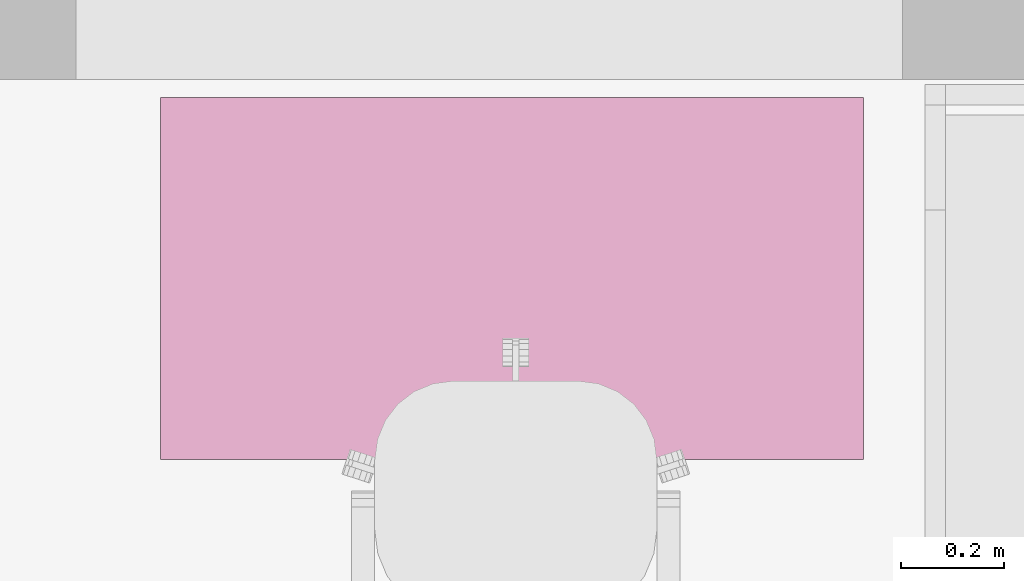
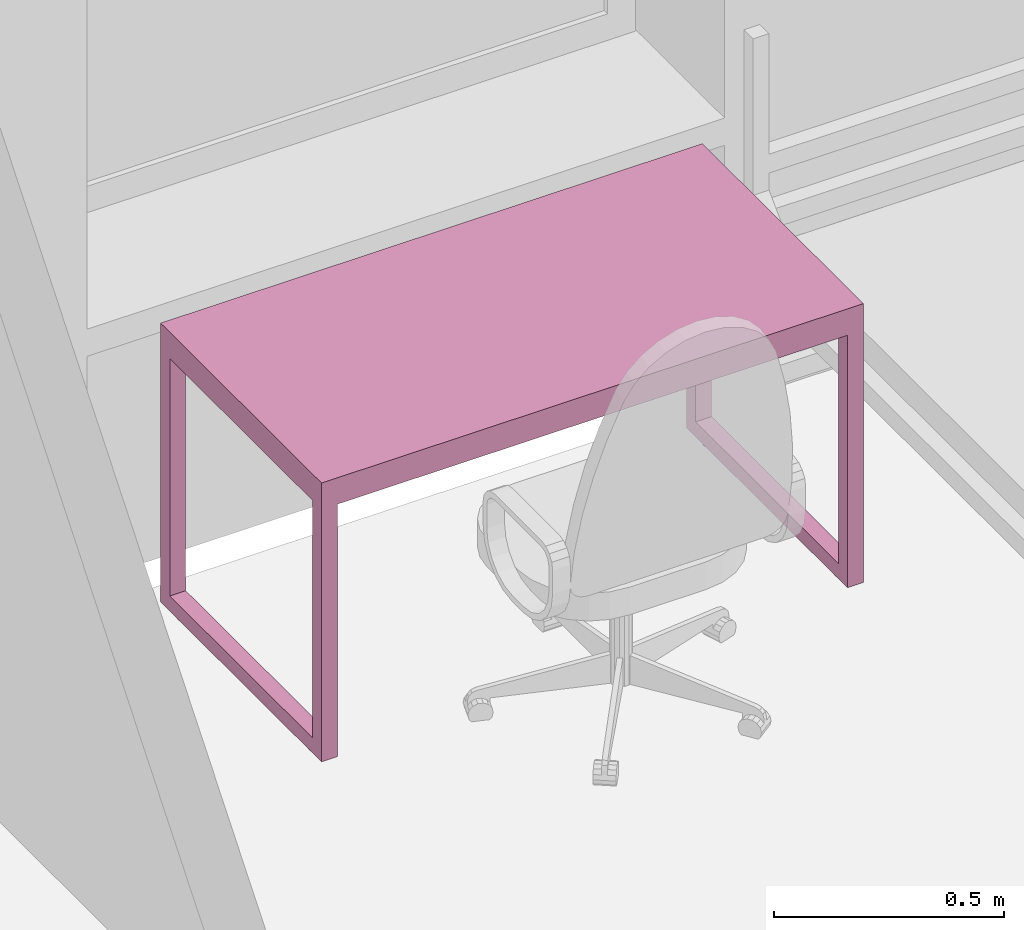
# One storey, part 25 of 46: 1 furnishing.
"""IFC2X3 building model written with IfcOpenShell, lengths in millimetres."""

from ifc_helpers import new_model, entity, si_unit, converted_unit, derived_unit, direction, frame, origin, place, context, subcontext, project, spatial, faceted_brep, source, transform, mapped, material, material_list, type_object, type_shapes, element, save


model = new_model("IFC2X3")

# Units and contexts
model_context = context("Model", 3, precision=0.01, world=origin(), true_north=direction((6.12303176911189e-17, 1.0)))
body_context = subcontext(model_context, "Body", "Model", "MODEL_VIEW")
ifc_project = project(units=[si_unit("LENGTHUNIT", "METRE", prefix="MILLI"), si_unit("AREAUNIT", "SQUARE_METRE"), si_unit("VOLUMEUNIT", "CUBIC_METRE"), converted_unit("PLANEANGLEUNIT", "DEGREE", entity("IfcRatioMeasure", 0.0174532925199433), si_unit("PLANEANGLEUNIT", "RADIAN"), dimensions=[0, 0, 0, 0, 0, 0, 0]), si_unit("MASSUNIT", "GRAM", prefix="KILO"), derived_unit("MASSDENSITYUNIT", [(si_unit("MASSUNIT", "GRAM", prefix="KILO"), 1), (si_unit("LENGTHUNIT", "METRE"), -3)]), si_unit("TIMEUNIT", "SECOND"), si_unit("FREQUENCYUNIT", "HERTZ"), si_unit("THERMODYNAMICTEMPERATUREUNIT", "DEGREE_CELSIUS"), derived_unit("THERMALTRANSMITTANCEUNIT", [(si_unit("MASSUNIT", "GRAM", prefix="KILO"), 1), (si_unit("THERMODYNAMICTEMPERATUREUNIT", "KELVIN"), -1), (si_unit("TIMEUNIT", "SECOND"), -3)]), derived_unit("VOLUMETRICFLOWRATEUNIT", [(si_unit("LENGTHUNIT", "METRE"), 3), (si_unit("TIMEUNIT", "SECOND"), -1)]), si_unit("ELECTRICCURRENTUNIT", "AMPERE"), si_unit("ELECTRICVOLTAGEUNIT", "VOLT"), si_unit("POWERUNIT", "WATT"), si_unit("FORCEUNIT", "NEWTON", prefix="KILO"), si_unit("ILLUMINANCEUNIT", "LUX"), si_unit("LUMINOUSFLUXUNIT", "LUMEN"), si_unit("LUMINOUSINTENSITYUNIT", "CANDELA"), derived_unit("USERDEFINED", [(si_unit("MASSUNIT", "GRAM", prefix="KILO"), -1), (si_unit("LENGTHUNIT", "METRE"), -2), (si_unit("TIMEUNIT", "SECOND"), 3), (si_unit("LUMINOUSFLUXUNIT", "LUMEN"), 1)]), derived_unit("LINEARVELOCITYUNIT", [(si_unit("LENGTHUNIT", "METRE"), 1), (si_unit("TIMEUNIT", "SECOND"), -1)]), si_unit("PRESSUREUNIT", "PASCAL"), derived_unit("USERDEFINED", [(si_unit("LENGTHUNIT", "METRE"), -2), (si_unit("MASSUNIT", "GRAM", prefix="KILO"), 1), (si_unit("TIMEUNIT", "SECOND"), -2)]), derived_unit("LINEARFORCEUNIT", [(si_unit("MASSUNIT", "GRAM", prefix="KILO"), 1), (si_unit("LENGTHUNIT", "METRE"), 1), (si_unit("TIMEUNIT", "SECOND"), -2), (si_unit("LENGTHUNIT", "METRE"), -1)]), derived_unit("PLANARFORCEUNIT", [(si_unit("MASSUNIT", "GRAM", prefix="KILO"), 1), (si_unit("LENGTHUNIT", "METRE"), 1), (si_unit("TIMEUNIT", "SECOND"), -2), (si_unit("LENGTHUNIT", "METRE"), -2)])], contexts=[model_context])

# Site, building, storey, space
site_placement = place(None, origin())
site = spatial("IfcSite", under=ifc_project, at=site_placement, Name="Default", CompositionType="ELEMENT")
building_placement = place(site_placement, origin())
building = spatial("IfcBuilding", under=site, at=building_placement, Name="SMA ARH", CompositionType="ELEMENT")
storey_placement = place(building_placement, frame((0.0, 0.0, 9910.0)))
storey = spatial("IfcBuildingStorey", under=building, at=storey_placement, Name="4 Korrus", CompositionType="ELEMENT", Elevation=9909.9999999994)
space_placement = place(storey_placement, origin())
space = spatial("IfcSpace", under=storey, at=space_placement, Name="4-20/2", CompositionType="ELEMENT", InteriorOrExteriorSpace="INTERNAL")

# Furnishing
ifc_material = material(Name="<Unnamed>")
ifc_material_list = material_list([ifc_material, ifc_material])
furniture_type = type_object("IfcFurnitureType", Name="kirjutuslaud 1360x700mm:kirjutuslaud 1360x700mm", material=ifc_material_list)
shared_shape = source(origin(), body_context, "Body", "Brep", [
    faceted_brep([(680.0, -350.0, 720.0), (680.0, 350.0, 720.0), (680.0, 350.0, 750.0), (680.0, -350.0, 750.0), (-680.0, -350.0, 720.0), (-680.0, -350.0, 750.0), (-680.0, 350.0, 750.0), (-680.0, 350.0, 720.0)], [[[0, 1, 2, 3]], [[4, 5, 6, 7]], [[1, 0, 4, 7]], [[2, 1, 7, 6]], [[3, 2, 6, 5]], [[0, 3, 5, 4]]]),
    faceted_brep([(-640.0, -310.0, 680.0), (-640.0, 310.0, 680.0), (-640.0, 310.0, 720.0), (-640.0, -310.0, 720.0), (-680.0, -350.0, 720.0), (-680.0, 350.0, 720.0), (-680.0, 350.0, 10.0), (-680.0, -350.0, 10.0), (-680.0, 310.0, 680.0), (-680.0, -310.0, 680.0), (-680.0, -310.0, 50.0), (-680.0, 310.0, 50.0), (-640.0, -350.0, 10.0), (-640.0, -350.0, 680.0), (640.0, -350.0, 680.0), (640.0, -350.0, 10.0), (680.0, -350.0, 10.0), (680.0, -350.0, 720.0), (-640.0, 350.0, 10.0), (680.0, 350.0, 720.0), (680.0, 350.0, 10.0), (640.0, 350.0, 10.0), (640.0, 350.0, 680.0), (-640.0, 350.0, 680.0), (640.0, 310.0, 720.0), (640.0, -310.0, 720.0), (-640.0, 310.0, 50.0), (-640.0, -310.0, 50.0), (640.0, -310.0, 680.0), (640.0, 310.0, 680.0), (680.0, 310.0, 680.0), (680.0, 310.0, 50.0), (680.0, -310.0, 50.0), (680.0, -310.0, 680.0), (640.0, -310.0, 50.0), (640.0, 310.0, 50.0)], [[[0, 1, 2, 3]], [[4, 5, 6, 7], [8, 9, 10, 11]], [[4, 7, 12, 13, 14, 15, 16, 17]], [[18, 12, 7, 6]], [[6, 5, 19, 20, 21, 22, 23, 18]], [[19, 5, 4, 17], [2, 24, 25, 3]], [[26, 1, 8, 11]], [[27, 26, 11, 10]], [[0, 27, 10, 9]], [[1, 0, 9, 8]], [[14, 13, 0, 28]], [[24, 2, 1, 29]], [[3, 25, 28, 0]], [[17, 16, 20, 19], [30, 31, 32, 33]], [[21, 15, 14, 28, 34, 35, 29, 22]], [[20, 16, 15, 21]], [[31, 30, 29, 35]], [[32, 31, 35, 34]], [[33, 32, 34, 28]], [[30, 33, 28, 29]], [[29, 28, 25, 24]], [[29, 1, 23, 22]], [[12, 18, 23, 1, 26, 27, 0, 13]]]),
    faceted_brep([(-663.729456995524, -270.466136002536, 0.0), (-659.847171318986, -269.955023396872, 0.0), (-655.964885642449, -270.466136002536, 0.0), (-652.347171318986, -271.964642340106, 0.0), (-649.240569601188, -274.348421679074, 0.0), (-646.85679026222, -277.455023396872, 0.0), (-645.35828392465, -281.072737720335, 0.0), (-644.847171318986, -284.955023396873, 0.0), (-645.35828392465, -288.83730907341, 0.0), (-646.85679026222, -292.455023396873, 0.0), (-649.240569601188, -295.561625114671, 0.0), (-652.347171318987, -297.945404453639, 0.0), (-655.964885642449, -299.443910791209, 0.0), (-659.847171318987, -299.955023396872, 0.0), (-663.729456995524, -299.443910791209, 0.0), (-667.347171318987, -297.945404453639, 0.0), (-670.453773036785, -295.561625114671, 0.0), (-672.837552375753, -292.455023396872, 0.0), (-674.336058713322, -288.83730907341, 0.0), (-674.847171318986, -284.955023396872, 0.0), (-674.336058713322, -281.072737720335, 0.0), (-672.837552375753, -277.455023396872, 0.0), (-670.453773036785, -274.348421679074, 0.0), (-667.347171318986, -271.964642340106, 0.0), (-655.964885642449, -299.443910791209, 10.0), (-652.347171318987, -297.945404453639, 10.0), (-649.240569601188, -295.561625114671, 10.0), (-646.85679026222, -292.455023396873, 10.0), (-645.35828392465, -288.83730907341, 10.0), (-644.847171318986, -284.955023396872, 10.0), (-645.35828392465, -281.072737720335, 10.0), (-646.85679026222, -277.455023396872, 10.0), (-649.240569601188, -274.348421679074, 10.0), (-652.347171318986, -271.964642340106, 10.0), (-655.964885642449, -270.466136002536, 10.0), (-659.847171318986, -269.955023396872, 10.0), (-663.729456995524, -270.466136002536, 10.0), (-667.347171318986, -271.964642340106, 10.0), (-670.453773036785, -274.348421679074, 10.0), (-672.837552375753, -277.455023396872, 10.0), (-674.336058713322, -281.072737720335, 10.0), (-674.847171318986, -284.955023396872, 10.0), (-674.336058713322, -288.83730907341, 10.0), (-672.837552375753, -292.455023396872, 10.0), (-670.453773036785, -295.561625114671, 10.0), (-667.347171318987, -297.945404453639, 10.0), (-663.729456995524, -299.443910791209, 10.0), (-659.847171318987, -299.955023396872, 10.0)], [[[0, 1, 2, 3, 4, 5, 6, 7, 8, 9, 10, 11, 12, 13, 14, 15, 16, 17, 18, 19, 20, 21, 22, 23]], [[24, 25, 26, 27, 28, 29, 30, 31, 32, 33, 34, 35, 36, 37, 38, 39, 40, 41, 42, 43, 44, 45, 46, 47]], [[18, 42, 41, 19]], [[17, 43, 42, 18]], [[45, 44, 16, 15]], [[17, 16, 44, 43]], [[46, 45, 15, 14]], [[47, 46, 14, 13]], [[12, 24, 47, 13]], [[11, 25, 24, 12]], [[27, 26, 10, 9]], [[11, 10, 26, 25]], [[28, 27, 9, 8]], [[29, 28, 8, 7]], [[6, 30, 29, 7]], [[5, 31, 30, 6]], [[33, 32, 4, 3]], [[5, 4, 32, 31]], [[34, 33, 3, 2]], [[35, 34, 2, 1]], [[0, 36, 35, 1]], [[23, 37, 36, 0]], [[39, 38, 22, 21]], [[23, 22, 38, 37]], [[40, 39, 21, 20]], [[41, 40, 20, 19]]]),
    faceted_brep([(-655.964885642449, 270.466136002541, 10.0), (-652.347171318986, 271.964642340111, 10.0), (-649.240569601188, 274.348421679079, 10.0), (-646.85679026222, 277.455023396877, 10.0), (-645.35828392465, 281.07273772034, 10.0), (-644.847171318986, 284.955023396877, 10.0), (-645.35828392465, 288.837309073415, 10.0), (-646.85679026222, 292.455023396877, 10.0), (-649.240569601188, 295.561625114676, 10.0), (-652.347171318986, 297.945404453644, 10.0), (-655.964885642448, 299.443910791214, 10.0), (-659.847171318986, 299.955023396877, 10.0), (-663.729456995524, 299.443910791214, 10.0), (-667.347171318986, 297.945404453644, 10.0), (-670.453773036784, 295.561625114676, 10.0), (-672.837552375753, 292.455023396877, 10.0), (-674.336058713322, 288.837309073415, 10.0), (-674.847171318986, 284.955023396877, 10.0), (-674.336058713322, 281.07273772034, 10.0), (-672.837552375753, 277.455023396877, 10.0), (-670.453773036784, 274.348421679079, 10.0), (-667.347171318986, 271.964642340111, 10.0), (-663.729456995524, 270.466136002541, 10.0), (-659.847171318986, 269.955023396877, 10.0), (-655.964885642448, 299.443910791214, 0.0), (-652.347171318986, 297.945404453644, 0.0), (-649.240569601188, 295.561625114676, 0.0), (-646.85679026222, 292.455023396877, 0.0), (-645.35828392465, 288.837309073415, 0.0), (-644.847171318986, 284.955023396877, 0.0), (-645.35828392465, 281.07273772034, 0.0), (-646.85679026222, 277.455023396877, 0.0), (-649.240569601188, 274.348421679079, 0.0), (-652.347171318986, 271.964642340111, 0.0), (-655.964885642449, 270.466136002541, 0.0), (-659.847171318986, 269.955023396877, 0.0), (-663.729456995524, 270.466136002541, 0.0), (-667.347171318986, 271.964642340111, 0.0), (-670.453773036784, 274.348421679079, 0.0), (-672.837552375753, 277.455023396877, 0.0), (-674.336058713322, 281.07273772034, 0.0), (-674.847171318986, 284.955023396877, 0.0), (-674.336058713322, 288.837309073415, 0.0), (-672.837552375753, 292.455023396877, 0.0), (-670.453773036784, 295.561625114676, 0.0), (-667.347171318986, 297.945404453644, 0.0), (-663.729456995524, 299.443910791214, 0.0), (-659.847171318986, 299.955023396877, 0.0)], [[[0, 1, 2, 3, 4, 5, 6, 7, 8, 9, 10, 11, 12, 13, 14, 15, 16, 17, 18, 19, 20, 21, 22, 23]], [[24, 25, 26, 27, 28, 29, 30, 31, 32, 33, 34, 35, 36, 37, 38, 39, 40, 41, 42, 43, 44, 45, 46, 47]], [[40, 18, 17, 41]], [[39, 19, 18, 40]], [[21, 20, 38, 37]], [[39, 38, 20, 19]], [[22, 21, 37, 36]], [[23, 22, 36, 35]], [[34, 0, 23, 35]], [[33, 1, 0, 34]], [[3, 2, 32, 31]], [[33, 32, 2, 1]], [[4, 3, 31, 30]], [[5, 4, 30, 29]], [[28, 6, 5, 29]], [[27, 7, 6, 28]], [[9, 8, 26, 25]], [[27, 26, 8, 7]], [[10, 9, 25, 24]], [[11, 10, 24, 47]], [[46, 12, 11, 47]], [[45, 13, 12, 46]], [[15, 14, 44, 43]], [[45, 44, 14, 13]], [[16, 15, 43, 42]], [[17, 16, 42, 41]]]),
    faceted_brep([(656.270543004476, -270.466136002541, 0.0), (660.152828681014, -269.955023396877, 0.0), (664.035114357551, -270.466136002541, 0.0), (667.652828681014, -271.96464234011, 0.0), (670.759430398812, -274.348421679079, 0.0), (673.14320973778, -277.455023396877, 0.0), (674.64171607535, -281.072737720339, 0.0), (675.152828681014, -284.955023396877, 0.0), (674.64171607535, -288.837309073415, 0.0), (673.14320973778, -292.455023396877, 0.0), (670.759430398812, -295.561625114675, 0.0), (667.652828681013, -297.945404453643, 0.0), (664.035114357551, -299.443910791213, 0.0), (660.152828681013, -299.955023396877, 0.0), (656.270543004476, -299.443910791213, 0.0), (652.652828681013, -297.945404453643, 0.0), (649.546226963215, -295.561625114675, 0.0), (647.162447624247, -292.455023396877, 0.0), (645.663941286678, -288.837309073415, 0.0), (645.152828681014, -284.955023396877, 0.0), (645.663941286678, -281.072737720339, 0.0), (647.162447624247, -277.455023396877, 0.0), (649.546226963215, -274.348421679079, 0.0), (652.652828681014, -271.96464234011, 0.0), (664.035114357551, -299.443910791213, 10.0), (667.652828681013, -297.945404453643, 10.0), (670.759430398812, -295.561625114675, 10.0), (673.14320973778, -292.455023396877, 10.0), (674.64171607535, -288.837309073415, 10.0), (675.152828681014, -284.955023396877, 10.0), (674.64171607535, -281.072737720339, 10.0), (673.14320973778, -277.455023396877, 10.0), (670.759430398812, -274.348421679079, 10.0), (667.652828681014, -271.96464234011, 10.0), (664.035114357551, -270.466136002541, 10.0), (660.152828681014, -269.955023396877, 10.0), (656.270543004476, -270.466136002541, 10.0), (652.652828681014, -271.96464234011, 10.0), (649.546226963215, -274.348421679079, 10.0), (647.162447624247, -277.455023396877, 10.0), (645.663941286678, -281.072737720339, 10.0), (645.152828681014, -284.955023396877, 10.0), (645.663941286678, -288.837309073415, 10.0), (647.162447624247, -292.455023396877, 10.0), (649.546226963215, -295.561625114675, 10.0), (652.652828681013, -297.945404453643, 10.0), (656.270543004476, -299.443910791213, 10.0), (660.152828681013, -299.955023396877, 10.0)], [[[0, 1, 2, 3, 4, 5, 6, 7, 8, 9, 10, 11, 12, 13, 14, 15, 16, 17, 18, 19, 20, 21, 22, 23]], [[24, 25, 26, 27, 28, 29, 30, 31, 32, 33, 34, 35, 36, 37, 38, 39, 40, 41, 42, 43, 44, 45, 46, 47]], [[18, 42, 41, 19]], [[17, 43, 42, 18]], [[45, 44, 16, 15]], [[17, 16, 44, 43]], [[46, 45, 15, 14]], [[47, 46, 14, 13]], [[12, 24, 47, 13]], [[11, 25, 24, 12]], [[27, 26, 10, 9]], [[11, 10, 26, 25]], [[28, 27, 9, 8]], [[29, 28, 8, 7]], [[6, 30, 29, 7]], [[5, 31, 30, 6]], [[33, 32, 4, 3]], [[5, 4, 32, 31]], [[34, 33, 3, 2]], [[35, 34, 2, 1]], [[0, 36, 35, 1]], [[23, 37, 36, 0]], [[39, 38, 22, 21]], [[23, 22, 38, 37]], [[40, 39, 21, 20]], [[41, 40, 20, 19]]]),
    faceted_brep([(664.035114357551, 270.466136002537, 10.0), (667.652828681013, 271.964642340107, 10.0), (670.759430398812, 274.348421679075, 10.0), (673.14320973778, 277.455023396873, 10.0), (674.64171607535, 281.072737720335, 10.0), (675.152828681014, 284.955023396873, 10.0), (674.64171607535, 288.837309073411, 10.0), (673.14320973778, 292.455023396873, 10.0), (670.759430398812, 295.561625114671, 10.0), (667.652828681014, 297.94540445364, 10.0), (664.035114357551, 299.443910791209, 10.0), (660.152828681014, 299.955023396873, 10.0), (656.270543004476, 299.443910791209, 10.0), (652.652828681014, 297.94540445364, 10.0), (649.546226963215, 295.561625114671, 10.0), (647.162447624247, 292.455023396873, 10.0), (645.663941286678, 288.837309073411, 10.0), (645.152828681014, 284.955023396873, 10.0), (645.663941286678, 281.072737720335, 10.0), (647.162447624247, 277.455023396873, 10.0), (649.546226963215, 274.348421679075, 10.0), (652.652828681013, 271.964642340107, 10.0), (656.270543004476, 270.466136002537, 10.0), (660.152828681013, 269.955023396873, 10.0), (664.035114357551, 299.443910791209, 0.0), (667.652828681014, 297.94540445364, 0.0), (670.759430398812, 295.561625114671, 0.0), (673.14320973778, 292.455023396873, 0.0), (674.64171607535, 288.837309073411, 0.0), (675.152828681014, 284.955023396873, 0.0), (674.64171607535, 281.072737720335, 0.0), (673.14320973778, 277.455023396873, 0.0), (670.759430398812, 274.348421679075, 0.0), (667.652828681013, 271.964642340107, 0.0), (664.035114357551, 270.466136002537, 0.0), (660.152828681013, 269.955023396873, 0.0), (656.270543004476, 270.466136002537, 0.0), (652.652828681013, 271.964642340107, 0.0), (649.546226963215, 274.348421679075, 0.0), (647.162447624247, 277.455023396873, 0.0), (645.663941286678, 281.072737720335, 0.0), (645.152828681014, 284.955023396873, 0.0), (645.663941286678, 288.837309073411, 0.0), (647.162447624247, 292.455023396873, 0.0), (649.546226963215, 295.561625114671, 0.0), (652.652828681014, 297.94540445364, 0.0), (656.270543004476, 299.443910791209, 0.0), (660.152828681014, 299.955023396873, 0.0)], [[[0, 1, 2, 3, 4, 5, 6, 7, 8, 9, 10, 11, 12, 13, 14, 15, 16, 17, 18, 19, 20, 21, 22, 23]], [[24, 25, 26, 27, 28, 29, 30, 31, 32, 33, 34, 35, 36, 37, 38, 39, 40, 41, 42, 43, 44, 45, 46, 47]], [[40, 18, 17, 41]], [[39, 19, 18, 40]], [[21, 20, 38, 37]], [[39, 38, 20, 19]], [[22, 21, 37, 36]], [[23, 22, 36, 35]], [[34, 0, 23, 35]], [[33, 1, 0, 34]], [[3, 2, 32, 31]], [[33, 32, 2, 1]], [[4, 3, 31, 30]], [[5, 4, 30, 29]], [[28, 6, 5, 29]], [[27, 7, 6, 28]], [[9, 8, 26, 25]], [[27, 26, 8, 7]], [[10, 9, 25, 24]], [[11, 10, 24, 47]], [[46, 12, 11, 47]], [[45, 13, 12, 46]], [[15, 14, 44, 43]], [[45, 44, 14, 13]], [[16, 15, 43, 42]], [[17, 16, 42, 41]]]),
])
type_shapes(furniture_type, [shared_shape])
furnishing_placement = place(space_placement, frame((6619.0, 12091.2030428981, 0.0)))
element("IfcFurnishingElement", 1, at=furnishing_placement, inside=space, type_object=furniture_type, Name="kirjutuslaud 1360x700mm:kirjutuslaud 1360x700mm", ObjectType="kirjutuslaud 1360x700mm:kirjutuslaud 1360x700mm", context=body_context, shape_type="MappedRepresentation", body=[
    mapped(shared_shape, transform((0.0, 0.0, 0.0), scale=1.0)),
])

save(model, "model.ifc")
